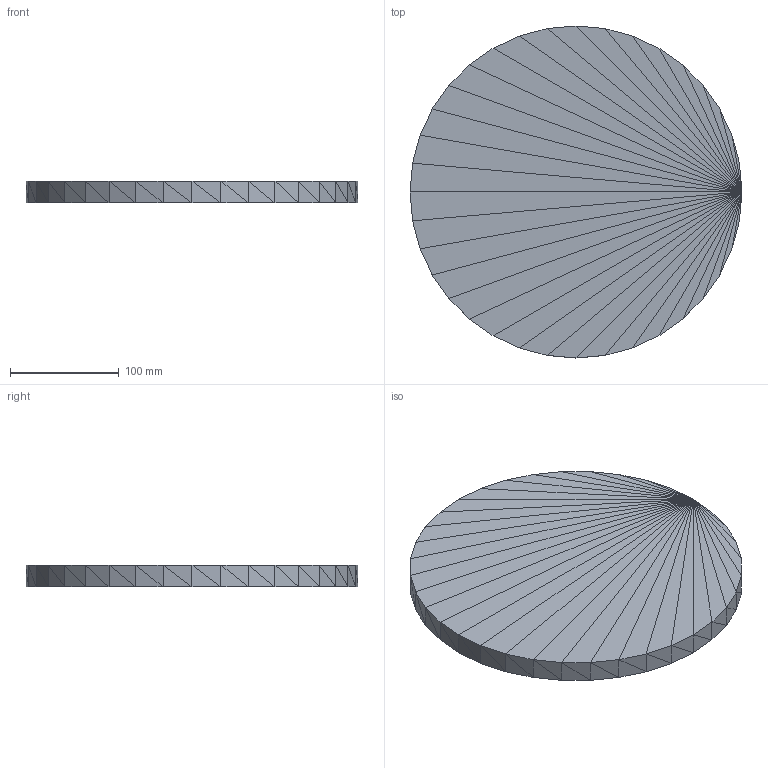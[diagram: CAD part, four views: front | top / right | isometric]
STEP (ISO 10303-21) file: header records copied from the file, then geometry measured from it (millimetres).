
FILE_DESCRIPTION(('ISINAC STEP AP214'),'2;1');
FILE_NAME('ISINAC_CIR.305_20mm_ADHESIVO','2026-05-03T10:49:19',('ISINAC'),('www.isinac.com'),'ISINAC BIM Generator 1.0','','');
FILE_SCHEMA(('AUTOMOTIVE_DESIGN'));
Length unit declared in the file: millimetre
Products named in the file (1): ISINAC_CIR.305_20mm_ADHESIVO
Bounding box: 305 x 305 x 20 mm (x, y, z)
Surface area: 164522 mm2 (no closed solid volume)
Topology: 0 solids, 140 shells, 140 faces, 420 edges, 420 vertices
Faces by surface type: plane 140
Entity records: 1553 total; most frequent: CARTESIAN_POINT 560, DIRECTION 280, POLY_LOOP 140, FACE_OUTER_BOUND 140, AXIS2_PLACEMENT_3D 140, PLANE 140, FACE_SURFACE 140, CLOSED_SHELL 1
